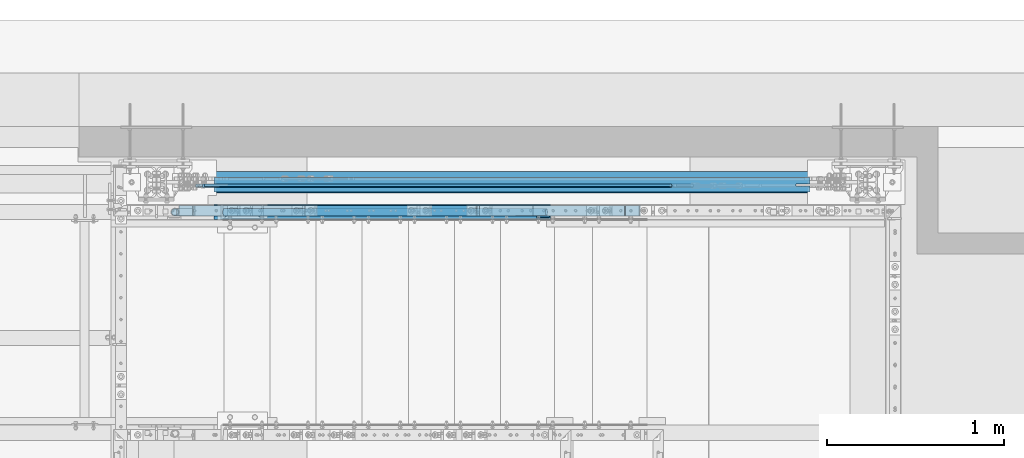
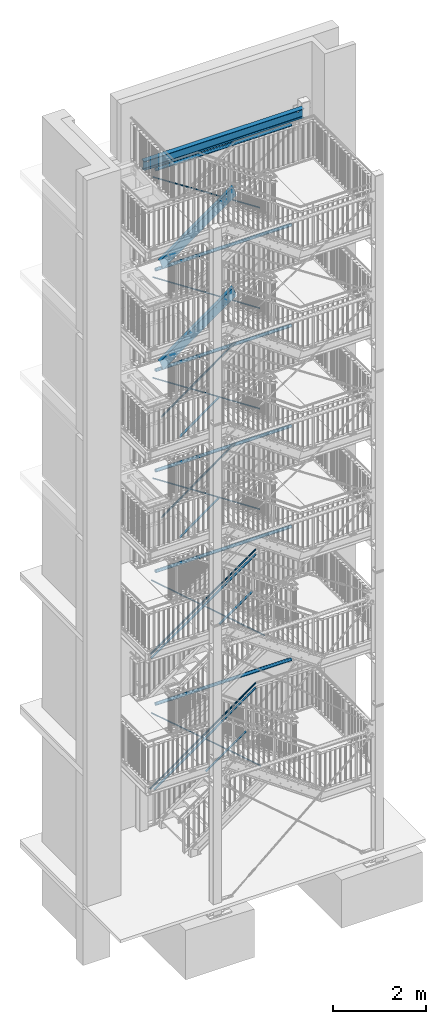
# One storey, part 128 of 831: 18 members, 7 beams, 46 openings.
"""IFC2X3 building model written with IfcOpenShell, lengths in millimetres."""

from ifc_helpers import new_model, entity, si_unit, converted_unit, frame, frame_2d, origin, origin_with_axes, origin_2d, origin_2d_with_axis, place, context, project, spatial, polyline, circle_curve, rectangle, circle, hollow_circle, i_section, u_section, outline, extrude, clip, halfspace, material, element, save


model = new_model("IFC2X3")

# Units and contexts
model_context = context("Model", 3, precision=1e-09, world=origin_with_axes())
ifc_project = project(units=[si_unit("LENGTHUNIT", "METRE", prefix="MILLI"), si_unit("AREAUNIT", "SQUARE_METRE"), si_unit("VOLUMEUNIT", "CUBIC_METRE"), converted_unit("PLANEANGLEUNIT", "DEGREE", entity("IfcPlaneAngleMeasure", 0.01745329), si_unit("PLANEANGLEUNIT", "RADIAN"), dimensions=[0, 0, 0, 0, 0, 0, 0])], contexts=[model_context])

# Site, building, storey
site_placement = place(None, origin_with_axes())
site = spatial("IfcSite", under=ifc_project, at=site_placement, Name="Site", CompositionType="ELEMENT")
building_placement = place(site_placement, origin_with_axes())
building = spatial("IfcBuilding", under=site, at=building_placement, Name="Struktur 1", CompositionType="ELEMENT")
storey_placement = place(building_placement, origin_with_axes())
storey = spatial("IfcBuildingStorey", under=building, at=storey_placement, Name="Default Storey", CompositionType="ELEMENT", Elevation=0.0)

# Members
ifc_material = material(Name="S235JR")
member_1_placement = place(None, frame((4986.295477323, 7356.736971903, 4861.709683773), z_axis=(-0.818063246, 0.0, -0.575128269), x_axis=(0.575128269, 0.0, -0.818063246)))
element("IfcMember", 1, at=member_1_placement, inside=storey, material=ifc_material, Name="Railing_Kneerail_Stair#1002", ObjectType="Railing_Kneerail_Stair#1002", context=model_context, shape_type="SweptSolid", body=[
    extrude(rectangle(XDim=10.0, YDim=60.0, at=origin_2d()), origin(), (0.0, 0.0, -1.0), 3175.074963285),
])
member_2_placement = place(None, frame((5064.778509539, 7356.736971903, 1400.5357212), z_axis=(-0.814635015, 0.0, -0.579973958), x_axis=(0.579973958, 0.0, -0.814635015)))
element("IfcMember", 2, at=member_2_placement, inside=storey, material=ifc_material, Name="Railing_Kneerail_Stair#1000", ObjectType="Railing_Kneerail_Stair#1000", context=model_context, shape_type="SweptSolid", body=[
    extrude(rectangle(XDim=10.0, YDim=60.0, at=origin_2d()), origin(), (0.0, 0.0, -1.0), 3092.190712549),
])

# Beam, openings
beam_1_placement = place(None, frame((8843.463402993, 7516.736971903, 17713.999999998), z_axis=(-1.0, 0.0, 0.0), x_axis=(0.0, 1.0, 0.0)))
beam_1 = element("IfcBeam", 3, at=beam_1_placement, inside=storey, material=ifc_material, Name="Girder", ObjectType="Girder", context=model_context, shape_type="SweptSolid", body=[
    extrude(i_section(OverallWidth=120.0, OverallDepth=240.0, WebThickness=6.2, FlangeThickness=9.8, FilletRadius=15.0, at=origin_2d()), origin(), (0.0, 0.0, 1.0), 3963.5),
])
opening_1_placement = place(beam_1_placement, frame((-160.1, -55.000000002, 151.750992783), z_axis=(-1.0, 0.0, 0.0), x_axis=(0.0, -1.0, 0.0)))
element("IfcOpeningElement", 4, at=opening_1_placement, cuts=beam_1, ObjectType="Opening", context=model_context, shape_type="SweptSolid", body=[
    extrude(outline(circle_curve(frame_2d((0.0, -25.001), x_axis=(1.0, 0.0)), 25.001)), origin(), (0.0, 0.0, -1.0), 320.2),
])
opening_2_placement = place(beam_1_placement, frame((-160.1, -55.0, 3861.750998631), z_axis=(-1.0, 0.0, 0.0), x_axis=(0.0, -1.0, 0.0)))
element("IfcOpeningElement", 5, at=opening_2_placement, cuts=beam_1, ObjectType="Opening", context=model_context, shape_type="SweptSolid", body=[
    extrude(outline(circle_curve(frame_2d((0.0, -25.001), x_axis=(1.0, 0.0)), 25.001)), origin(), (0.0, 0.0, -1.0), 320.2),
])

# Members
member_3_placement = place(None, frame((5085.030637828, 7496.736971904, 3315.453588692), z_axis=(0.757867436, 0.0, -0.652408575), x_axis=(0.652408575, 0.0, 0.757867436)))
element("IfcMember", 6, at=member_3_placement, inside=storey, material=ifc_material, Name="-", ObjectType="-", context=model_context, shape_type="SweptSolid", body=[
    extrude(circle(Radius=11.0, at=origin_2d()), origin(), (0.0, 0.0, 1.0), 3558.71454228),
])
member_4_placement = place(None, frame((5083.107423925, 7496.736971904, 6788.923578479), z_axis=(0.755906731, 0.0, -0.654679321), x_axis=(0.654679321, 0.0, 0.755906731)))
element("IfcMember", 7, at=member_4_placement, inside=storey, material=ifc_material, Name="-", ObjectType="-", context=model_context, shape_type="SweptSolid", body=[
    extrude(circle(Radius=11.0, at=origin_2d()), origin(), (0.0, 0.0, 1.0), 3695.890496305),
])
member_5_placement = place(None, frame((5121.759351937, 7496.736971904, 9443.034675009), z_axis=(0.83600607, 0.0, -0.548720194), x_axis=(0.548720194, 0.0, 0.83600607)))
element("IfcMember", 8, at=member_5_placement, inside=storey, material=ifc_material, Name="-", ObjectType="-", context=model_context, shape_type="SweptSolid", body=[
    extrude(circle(Radius=11.0, at=origin_2d()), origin(), (0.0, 0.0, 1.0), 3152.49296177),
])
member_6_placement = place(None, frame((5121.910638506, 7496.736971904, 12070.266046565), z_axis=(0.83648421, 0.0, -0.547991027), x_axis=(0.547991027, 0.0, 0.83648421)))
element("IfcMember", 9, at=member_6_placement, inside=storey, material=ifc_material, Name="-", ObjectType="-", context=model_context, shape_type="SweptSolid", body=[
    extrude(circle(Radius=11.0, at=origin_2d()), origin(), (0.0, 0.0, 1.0), 3149.75158325),
])
member_7_placement = place(None, frame((5121.66865522, 7496.736971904, 14704.895983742), z_axis=(0.835719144, 0.0, -0.549157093), x_axis=(0.549157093, 0.0, 0.835719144)))
element("IfcMember", 10, at=member_7_placement, inside=storey, material=ifc_material, Name="-", ObjectType="-", context=model_context, shape_type="SweptSolid", body=[
    extrude(circle(Radius=11.0, at=origin_2d()), origin(), (0.0, 0.0, 1.0), 3154.139325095),
])
member_8_placement = place(None, frame((5122.122703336, 7496.736971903, 17325.590428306), z_axis=(0.837153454, 0.0, -0.546968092), x_axis=(0.546968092, 0.0, 0.837153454)))
element("IfcMember", 11, at=member_8_placement, inside=storey, material=ifc_material, Name="-", ObjectType="-", context=model_context, shape_type="SweptSolid", body=[
    extrude(circle(Radius=11.0, at=origin_2d()), origin(), (0.0, 0.0, 1.0), 3145.919038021),
])

# Beam, openings
beam_2_placement = place(None, frame((5179.963402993, 7501.736971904, 6984.999996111), z_axis=(-1.0, 0.0, 0.0), x_axis=(0.0, 0.0, -1.0)))
beam_2 = element("IfcBeam", 12, at=beam_2_placement, inside=storey, material=ifc_material, Name="Girder", ObjectType="Girder", context=model_context, shape_type="SweptSolid", body=[
    extrude(hollow_circle(Radius=41.25, WallThickness=3.2, at=origin_2d()), origin(), (0.0, 0.0, -1.0), 3363.5),
])
opening_3_placement = place(beam_2_placement, frame((141.35, 0.0, -3363.5), z_axis=(-1.0, 0.0, 0.0), x_axis=(0.0, 0.0, -1.0)))
element("IfcOpeningElement", 13, at=opening_3_placement, cuts=beam_2, ObjectType="Opening", context=model_context, shape_type="SweptSolid", body=[
    extrude(outline(polyline([(-81.001, -5.501), (26.790041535, -5.501), (26.790041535, 5.501), (-81.001, 5.501), (-81.001, -5.501)])), origin(), (0.0, 0.0, 1.0), 282.7),
])
opening_4_placement = place(beam_2_placement, frame((141.35, 5.501, -73.820556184), z_axis=(1.0, 0.0, 0.0), x_axis=(0.0, 0.0, 1.0)))
element("IfcOpeningElement", 14, at=opening_4_placement, cuts=beam_2, ObjectType="Opening", context=model_context, shape_type="SweptSolid", body=[
    extrude(outline(polyline([(0.0, 0.0), (107.791041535, 0.0), (107.791041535, 11.002), (0.0, 11.002), (0.0, 0.0)])), origin(), (0.0, 0.0, -1.0), 282.7),
])

beam_3_placement = place(None, frame((5179.963402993, 7501.736971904, 3511.999996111), z_axis=(-1.0, 0.0, 0.0), x_axis=(0.0, 0.0, -1.0)))
beam_3 = element("IfcBeam", 15, at=beam_3_placement, inside=storey, material=ifc_material, Name="Girder", ObjectType="Girder", context=model_context, shape_type="SweptSolid", body=[
    extrude(hollow_circle(Radius=41.25, WallThickness=3.2, at=origin_2d()), origin(), (0.0, 0.0, -1.0), 3363.5),
])
opening_5_placement = place(beam_3_placement, frame((141.35, 0.0, -3363.5), z_axis=(-1.0, 0.0, 0.0), x_axis=(0.0, 0.0, -1.0)))
element("IfcOpeningElement", 16, at=opening_5_placement, cuts=beam_3, ObjectType="Opening", context=model_context, shape_type="SweptSolid", body=[
    extrude(outline(polyline([(-81.001, -5.501), (26.790041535, -5.501), (26.790041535, 5.501), (-81.001, 5.501), (-81.001, -5.501)])), origin(), (0.0, 0.0, 1.0), 282.7),
])
opening_6_placement = place(beam_3_placement, frame((141.35, 5.501, -73.820556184), z_axis=(1.0, 0.0, 0.0), x_axis=(0.0, 0.0, 1.0)))
element("IfcOpeningElement", 17, at=opening_6_placement, cuts=beam_3, ObjectType="Opening", context=model_context, shape_type="SweptSolid", body=[
    extrude(outline(polyline([(0.0, 0.0), (107.791041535, 0.0), (107.791041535, 11.002), (0.0, 11.002), (0.0, 0.0)])), origin(), (0.0, 0.0, -1.0), 282.7),
])

beam_4_placement = place(None, frame((5179.963402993, 7501.736971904, 9616.999996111), z_axis=(-1.0, 0.0, 0.0), x_axis=(0.0, 0.0, -1.0)))
beam_4 = element("IfcBeam", 18, at=beam_4_placement, inside=storey, material=ifc_material, Name="Girder", ObjectType="Girder", context=model_context, shape_type="SweptSolid", body=[
    extrude(hollow_circle(Radius=41.25, WallThickness=3.2, at=origin_2d()), origin(), (0.0, 0.0, -1.0), 3363.5),
])
opening_7_placement = place(beam_4_placement, frame((141.35, 0.0, -3363.5), z_axis=(-1.0, 0.0, 0.0), x_axis=(0.0, 0.0, -1.0)))
element("IfcOpeningElement", 19, at=opening_7_placement, cuts=beam_4, ObjectType="Opening", context=model_context, shape_type="SweptSolid", body=[
    extrude(outline(polyline([(-81.001, -5.501), (26.790041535, -5.501), (26.790041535, 5.501), (-81.001, 5.501), (-81.001, -5.501)])), origin(), (0.0, 0.0, 1.0), 282.7),
])
opening_8_placement = place(beam_4_placement, frame((141.35, 5.501, -73.820556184), z_axis=(1.0, 0.0, 0.0), x_axis=(0.0, 0.0, 1.0)))
element("IfcOpeningElement", 20, at=opening_8_placement, cuts=beam_4, ObjectType="Opening", context=model_context, shape_type="SweptSolid", body=[
    extrude(outline(polyline([(0.0, 0.0), (107.791041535, 0.0), (107.791041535, 11.002), (0.0, 11.002), (0.0, 0.0)])), origin(), (0.0, 0.0, -1.0), 282.7),
])

beam_5_placement = place(None, frame((5179.963402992, 7501.736971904, 12243.999996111), z_axis=(-1.0, 0.0, 0.0), x_axis=(0.0, 0.0, -1.0)))
beam_5 = element("IfcBeam", 21, at=beam_5_placement, inside=storey, material=ifc_material, Name="Girder", ObjectType="Girder", context=model_context, shape_type="SweptSolid", body=[
    extrude(hollow_circle(Radius=41.25, WallThickness=3.2, at=origin_2d()), origin(), (0.0, 0.0, -1.0), 3363.5),
])
opening_9_placement = place(beam_5_placement, frame((141.35, 0.0, -3363.5), z_axis=(-1.0, 0.0, 0.0), x_axis=(0.0, 0.0, -1.0)))
element("IfcOpeningElement", 22, at=opening_9_placement, cuts=beam_5, ObjectType="Opening", context=model_context, shape_type="SweptSolid", body=[
    extrude(outline(polyline([(-81.001, -5.501), (26.790041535, -5.501), (26.790041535, 5.501), (-81.001, 5.501), (-81.001, -5.501)])), origin(), (0.0, 0.0, 1.0), 282.7),
])
opening_10_placement = place(beam_5_placement, frame((141.35, 5.501, -73.820556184), z_axis=(1.0, 0.0, 0.0), x_axis=(0.0, 0.0, 1.0)))
element("IfcOpeningElement", 23, at=opening_10_placement, cuts=beam_5, ObjectType="Opening", context=model_context, shape_type="SweptSolid", body=[
    extrude(outline(polyline([(0.0, 0.0), (107.791041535, 0.0), (107.791041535, 11.002), (0.0, 11.002), (0.0, 0.0)])), origin(), (0.0, 0.0, -1.0), 282.7),
])

beam_6_placement = place(None, frame((5179.963402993, 7501.736971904, 14878.999996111), z_axis=(-1.0, 0.0, 0.0), x_axis=(0.0, 0.0, -1.0)))
beam_6 = element("IfcBeam", 24, at=beam_6_placement, inside=storey, material=ifc_material, Name="Girder", ObjectType="Girder", context=model_context, shape_type="SweptSolid", body=[
    extrude(hollow_circle(Radius=41.25, WallThickness=3.2, at=origin_2d()), origin(), (0.0, 0.0, -1.0), 3363.5),
])
opening_11_placement = place(beam_6_placement, frame((141.35, 0.0, -3363.5), z_axis=(-1.0, 0.0, 0.0), x_axis=(0.0, 0.0, -1.0)))
element("IfcOpeningElement", 25, at=opening_11_placement, cuts=beam_6, ObjectType="Opening", context=model_context, shape_type="SweptSolid", body=[
    extrude(outline(polyline([(-81.001, -5.501), (26.790041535, -5.501), (26.790041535, 5.501), (-81.001, 5.501), (-81.001, -5.501)])), origin(), (0.0, 0.0, 1.0), 282.7),
])
opening_12_placement = place(beam_6_placement, frame((141.35, 5.501, -73.820556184), z_axis=(1.0, 0.0, 0.0), x_axis=(0.0, 0.0, 1.0)))
element("IfcOpeningElement", 26, at=opening_12_placement, cuts=beam_6, ObjectType="Opening", context=model_context, shape_type="SweptSolid", body=[
    extrude(outline(polyline([(0.0, 0.0), (107.791041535, 0.0), (107.791041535, 11.002), (0.0, 11.002), (0.0, 0.0)])), origin(), (0.0, 0.0, -1.0), 282.7),
])

beam_7_placement = place(None, frame((5179.963402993, 7501.736971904, 17498.999996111), z_axis=(-1.0, 0.0, 0.0), x_axis=(0.0, 0.0, -1.0)))
beam_7 = element("IfcBeam", 27, at=beam_7_placement, inside=storey, material=ifc_material, Name="Girder", ObjectType="Girder", context=model_context, shape_type="SweptSolid", body=[
    extrude(hollow_circle(Radius=41.25, WallThickness=3.2, at=origin_2d()), origin(), (0.0, 0.0, -1.0), 3363.5),
])
opening_13_placement = place(beam_7_placement, frame((141.35, 0.0, -3363.5), z_axis=(-1.0, 0.0, 0.0), x_axis=(0.0, 0.0, -1.0)))
element("IfcOpeningElement", 28, at=opening_13_placement, cuts=beam_7, ObjectType="Opening", context=model_context, shape_type="SweptSolid", body=[
    extrude(outline(polyline([(-81.001, -5.501), (26.790041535, -5.501), (26.790041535, 5.501), (-81.001, 5.501), (-81.001, -5.501)])), origin(), (0.0, 0.0, 1.0), 282.7),
])
opening_14_placement = place(beam_7_placement, frame((141.35, 5.501, -73.820556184), z_axis=(1.0, 0.0, 0.0), x_axis=(0.0, 0.0, 1.0)))
element("IfcOpeningElement", 29, at=opening_14_placement, cuts=beam_7, ObjectType="Opening", context=model_context, shape_type="SweptSolid", body=[
    extrude(outline(polyline([(0.0, 0.0), (107.791041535, 0.0), (107.791041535, 11.002), (0.0, 11.002), (0.0, 0.0)])), origin(), (0.0, 0.0, -1.0), 282.7),
])

# Members
member_9_placement = place(None, frame((4933.622473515, 7347.936971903, 1439.321699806), z_axis=(-0.814635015, 0.0, -0.579973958), x_axis=(0.579973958, 0.0, -0.814635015)))
element("IfcMember", 30, at=member_9_placement, inside=storey, material=ifc_material, Name="Gel?nder", ObjectType="Gel?nder", context=model_context, shape_type="Clipping", body=[
    clip(clip(extrude(hollow_circle(Radius=21.2, WallThickness=3.2, at=origin_2d()), origin(), (0.0, 0.0, -1.0), 3275.984752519), halfspace(frame((-3324.976639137, 7347.936971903, 1680.625855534), z_axis=(-0.458271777, 0.0, -0.888812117), x_axis=(0.0, -1.0, 0.0)), True)), halfspace(frame((816.100663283, 7347.936971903, -2983.675065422), z_axis=(-0.304437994, 0.0, 0.952532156), x_axis=(0.0, 1.0, 0.0)), True)),
])
member_10_placement = place(None, frame((6345.189860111, 7356.736971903, 1424.068005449), z_axis=(-0.814635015, 0.0, -0.579973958), x_axis=(0.579973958, 0.0, -0.814635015)))
element("IfcMember", 31, at=member_10_placement, inside=storey, material=ifc_material, Name="Railing_Kneerail_Stair#2", ObjectType="Railing_Kneerail_Stair#2", context=model_context, shape_type="SweptSolid", body=[
    extrude(rectangle(XDim=10.0, YDim=60.0, at=origin_2d()), origin(), (0.0, 0.0, -1.0), 1218.06374537),
])
member_11_placement = place(None, frame((4950.988825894, 7347.936971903, 4968.914684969), z_axis=(-0.818063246, 0.0, -0.575128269), x_axis=(0.575128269, 0.0, -0.818063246)))
element("IfcMember", 32, at=member_11_placement, inside=storey, material=ifc_material, Name="Gel?nder", ObjectType="Gel?nder", context=model_context, shape_type="Clipping", body=[
    clip(clip(extrude(hollow_circle(Radius=21.2, WallThickness=3.2, at=origin_2d()), origin(), (0.0, 0.0, -1.0), 3241.129789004), halfspace(frame((3102.216720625, 7347.936971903, 949.912137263), z_axis=(0.301609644, 0.0, -0.953431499), x_axis=(0.0, -1.0, 0.0)), True)), halfspace(frame((4016.163485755, 7347.936971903, -1939.205143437), z_axis=(-0.301609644, 0.0, 0.953431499), x_axis=(0.0, 1.0, 0.0)), True)),
])
member_12_placement = place(None, frame((6682.089330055, 7356.736971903, 5165.39737516), z_axis=(-0.818063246, 0.0, -0.575128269), x_axis=(0.575128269, 0.0, -0.818063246)))
element("IfcMember", 33, at=member_12_placement, inside=storey, material=ifc_material, Name="Railing_Kneerail_Stair#4", ObjectType="Railing_Kneerail_Stair#4", context=model_context, shape_type="SweptSolid", body=[
    extrude(rectangle(XDim=10.0, YDim=60.0, at=origin_2d()), origin(), (0.0, 0.0, -1.0), 997.321307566),
])

# Member, openings
member_13_placement = place(None, frame((5041.249041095, 7329.036971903, 12329.361065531), z_axis=(0.810033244, 0.0, 0.586383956), x_axis=(0.0, 1.0, 0.0)))
member_13 = element("IfcMember", 34, at=member_13_placement, inside=storey, material=ifc_material, Name="Stringer#1", ObjectType="Stringer#1", context=model_context, shape_type="Clipping", body=[
    clip(clip(extrude(u_section(Depth=240.0, FlangeWidth=85.0, WebThickness=9.5, FlangeThickness=13.0, FilletRadius=13.0, EdgeRadius=6.5, FlangeSlope=4.574, at=frame_2d((20.2, 0.0))), origin(), (0.0, 0.0, 1.0), 2766.736495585), halfspace(frame((-7329.036971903, -10403.792085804, -902.542281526), z_axis=(0.0, 0.308193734, -0.951323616), x_axis=(-1.0, 0.0, 0.0)), True)), halfspace(frame((-7329.036971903, -9745.042702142, -2935.951061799), z_axis=(0.0, -0.308193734, 0.951323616), x_axis=(1.0, 0.0, 0.0)), True)),
])
opening_15_placement = place(member_13_placement, frame((-22.8, 54.92473321, 1287.195743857), z_axis=(1.0, 0.0, 0.0), x_axis=(0.0, -0.586383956, 0.810033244)))
element("IfcOpeningElement", 35, at=opening_15_placement, cuts=member_13, ObjectType="Opening", context=model_context, shape_type="SweptSolid", body=[
    extrude(circle(Radius=7.001, at=origin_2d_with_axis()), origin(), (0.0, 0.0, 1.0), 10.5),
])
opening_16_placement = place(member_13_placement, frame((-22.8, -50.624378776, 1112.027246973), z_axis=(1.0, 0.0, 0.0), x_axis=(0.0, -0.586383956, 0.810033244)))
element("IfcOpeningElement", 36, at=opening_16_placement, cuts=member_13, ObjectType="Opening", context=model_context, shape_type="SweptSolid", body=[
    extrude(circle(Radius=7.001, at=origin_2d_with_axis()), origin(), (0.0, 0.0, 1.0), 10.5),
])
opening_17_placement = place(member_13_placement, frame((-22.8, -50.624378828, 1753.976208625), z_axis=(1.0, 0.0, 0.0), x_axis=(0.0, -0.586383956, 0.810033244)))
element("IfcOpeningElement", 37, at=opening_17_placement, cuts=member_13, ObjectType="Opening", context=model_context, shape_type="SweptSolid", body=[
    extrude(circle(Radius=7.001, at=origin_2d_with_axis()), origin(), (0.0, 0.0, 1.0), 10.5),
])
opening_18_placement = place(member_13_placement, frame((-22.8, 54.924733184, 1608.170224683), z_axis=(1.0, 0.0, 0.0), x_axis=(0.0, -0.586383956, 0.810033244)))
element("IfcOpeningElement", 38, at=opening_18_placement, cuts=member_13, ObjectType="Opening", context=model_context, shape_type="SweptSolid", body=[
    extrude(circle(Radius=7.001, at=origin_2d_with_axis()), origin(), (0.0, 0.0, 1.0), 10.5),
])
opening_19_placement = place(member_13_placement, frame((-22.8, -50.624378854, 2074.950689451), z_axis=(1.0, 0.0, 0.0), x_axis=(0.0, -0.586383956, 0.810033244)))
element("IfcOpeningElement", 39, at=opening_19_placement, cuts=member_13, ObjectType="Opening", context=model_context, shape_type="SweptSolid", body=[
    extrude(circle(Radius=7.001, at=origin_2d_with_axis()), origin(), (0.0, 0.0, 1.0), 10.5),
])
opening_20_placement = place(member_13_placement, frame((-22.8, 54.924733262, 645.246782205), z_axis=(1.0, 0.0, 0.0), x_axis=(0.0, -0.586383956, 0.810033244)))
element("IfcOpeningElement", 40, at=opening_20_placement, cuts=member_13, ObjectType="Opening", context=model_context, shape_type="SweptSolid", body=[
    extrude(circle(Radius=7.001, at=origin_2d_with_axis()), origin(), (0.0, 0.0, 1.0), 10.5),
])
opening_21_placement = place(member_13_placement, frame((-22.8, 54.924733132, 2250.119186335), z_axis=(1.0, 0.0, 0.0), x_axis=(0.0, -0.586383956, 0.810033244)))
element("IfcOpeningElement", 41, at=opening_21_placement, cuts=member_13, ObjectType="Opening", context=model_context, shape_type="SweptSolid", body=[
    extrude(circle(Radius=7.001, at=origin_2d_with_axis()), origin(), (0.0, 0.0, 1.0), 10.5),
])
opening_22_placement = place(member_13_placement, frame((-22.8, 54.924733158, 1929.144705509), z_axis=(1.0, 0.0, 0.0), x_axis=(0.0, -0.586383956, 0.810033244)))
element("IfcOpeningElement", 42, at=opening_22_placement, cuts=member_13, ObjectType="Opening", context=model_context, shape_type="SweptSolid", body=[
    extrude(circle(Radius=7.001, at=origin_2d_with_axis()), origin(), (0.0, 0.0, 1.0), 10.5),
])
opening_23_placement = place(member_13_placement, frame((-22.8, -50.624378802, 1433.001727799), z_axis=(1.0, 0.0, 0.0), x_axis=(0.0, -0.586383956, 0.810033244)))
element("IfcOpeningElement", 43, at=opening_23_placement, cuts=member_13, ObjectType="Opening", context=model_context, shape_type="SweptSolid", body=[
    extrude(circle(Radius=7.001, at=origin_2d_with_axis()), origin(), (0.0, 0.0, 1.0), 10.5),
])
opening_24_placement = place(member_13_placement, frame((-22.8, 54.924733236, 966.221263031), z_axis=(1.0, 0.0, 0.0), x_axis=(0.0, -0.586383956, 0.810033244)))
element("IfcOpeningElement", 44, at=opening_24_placement, cuts=member_13, ObjectType="Opening", context=model_context, shape_type="SweptSolid", body=[
    extrude(circle(Radius=7.001, at=origin_2d_with_axis()), origin(), (0.0, 0.0, 1.0), 10.5),
])
opening_25_placement = place(member_13_placement, frame((-22.8, -50.62437888, 2395.925170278), z_axis=(1.0, 0.0, 0.0), x_axis=(0.0, -0.586383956, 0.810033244)))
element("IfcOpeningElement", 45, at=opening_25_placement, cuts=member_13, ObjectType="Opening", context=model_context, shape_type="SweptSolid", body=[
    extrude(circle(Radius=7.001, at=origin_2d_with_axis()), origin(), (0.0, 0.0, 1.0), 10.5),
])
opening_26_placement = place(member_13_placement, frame((-22.8, -50.62437875, 791.052766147), z_axis=(1.0, 0.0, 0.0), x_axis=(0.0, -0.586383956, 0.810033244)))
element("IfcOpeningElement", 46, at=opening_26_placement, cuts=member_13, ObjectType="Opening", context=model_context, shape_type="SweptSolid", body=[
    extrude(circle(Radius=7.001, at=origin_2d_with_axis()), origin(), (0.0, 0.0, 1.0), 10.5),
])
opening_27_placement = place(member_13_placement, frame((27.7, 120.5, 941.139330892), z_axis=(0.0, 1.0, 0.0), x_axis=(-1.0, 0.0, 0.0)))
element("IfcOpeningElement", 47, at=opening_27_placement, cuts=member_13, ObjectType="Opening", context=model_context, shape_type="SweptSolid", body=[
    extrude(circle(Radius=7.001, at=frame_2d((0.0, 7.001), x_axis=(1.0, 0.0))), origin(), (0.0, 0.0, -1.0), 14.0),
])
opening_28_placement = place(member_13_placement, frame((27.7, 120.5, 841.139330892), z_axis=(0.0, 1.0, 0.0), x_axis=(-1.0, 0.0, 0.0)))
element("IfcOpeningElement", 48, at=opening_28_placement, cuts=member_13, ObjectType="Opening", context=model_context, shape_type="SweptSolid", body=[
    extrude(circle(Radius=7.001, at=frame_2d((0.0, 7.001), x_axis=(1.0, 0.0))), origin(), (0.0, 0.0, -1.0), 14.0),
])
opening_29_placement = place(member_13_placement, frame((27.7, 120.5, 2157.13898276), z_axis=(0.0, 1.0, 0.0), x_axis=(-1.0, 0.0, 0.0)))
element("IfcOpeningElement", 49, at=opening_29_placement, cuts=member_13, ObjectType="Opening", context=model_context, shape_type="SweptSolid", body=[
    extrude(circle(Radius=7.001, at=frame_2d((0.0, 7.001), x_axis=(1.0, 0.0))), origin(), (0.0, 0.0, -1.0), 14.000000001),
])
opening_30_placement = place(member_13_placement, frame((27.7, 120.500000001, 2057.13898276), z_axis=(0.0, 1.0, 0.0), x_axis=(-1.0, 0.0, 0.0)))
element("IfcOpeningElement", 50, at=opening_30_placement, cuts=member_13, ObjectType="Opening", context=model_context, shape_type="SweptSolid", body=[
    extrude(circle(Radius=7.001, at=frame_2d((0.0, 7.001), x_axis=(1.0, 0.0))), origin(), (0.0, 0.0, -1.0), 14.000000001),
])

member_14_placement = place(None, frame((5040.349232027, 7329.036971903, 14964.808313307), z_axis=(0.811618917, 0.0, 0.584187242), x_axis=(0.0, 1.0, 0.0)))
member_14 = element("IfcMember", 51, at=member_14_placement, inside=storey, material=ifc_material, Name="Stringer#1", ObjectType="Stringer#1", context=model_context, shape_type="Clipping", body=[
    clip(clip(extrude(u_section(Depth=240.0, FlangeWidth=85.0, WebThickness=9.5, FlangeThickness=13.0, FilletRadius=13.0, EdgeRadius=6.5, FlangeSlope=4.574, at=frame_2d((20.2, 0.0))), origin(), (0.0, 0.0, 1.0), 2762.119261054), halfspace(frame((-7329.036971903, -12802.606591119, -1664.839205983), z_axis=(0.0, 0.306904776, -0.951740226), x_axis=(-1.0, 0.0, 0.0)), True)), halfspace(frame((-7329.036971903, -12147.607204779, -3696.053161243), z_axis=(0.0, -0.306904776, 0.951740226), x_axis=(1.0, 0.0, 0.0)), True)),
])
opening_31_placement = place(member_14_placement, frame((-22.8, 54.914406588, 644.938721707), z_axis=(1.0, 0.0, 0.0), x_axis=(0.0, -0.584187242, 0.811618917)))
element("IfcOpeningElement", 52, at=opening_31_placement, cuts=member_14, ObjectType="Opening", context=model_context, shape_type="SweptSolid", body=[
    extrude(circle(Radius=7.001, at=origin_2d_with_axis()), origin(), (0.0, 0.0, 1.0), 10.5),
])
opening_32_placement = place(member_14_placement, frame((-22.8, -50.239297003, 2392.767066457), z_axis=(1.0, 0.0, 0.0), x_axis=(0.0, -0.584187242, 0.811618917)))
element("IfcOpeningElement", 53, at=opening_32_placement, cuts=member_14, ObjectType="Opening", context=model_context, shape_type="SweptSolid", body=[
    extrude(circle(Radius=7.001, at=origin_2d_with_axis()), origin(), (0.0, 0.0, 1.0), 10.5),
])
opening_33_placement = place(member_14_placement, frame((-22.8, 54.914406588, 1605.980885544), z_axis=(1.0, 0.0, 0.0), x_axis=(0.0, -0.584187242, 0.811618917)))
element("IfcOpeningElement", 54, at=opening_33_placement, cuts=member_14, ObjectType="Opening", context=model_context, shape_type="SweptSolid", body=[
    extrude(circle(Radius=7.001, at=origin_2d_with_axis()), origin(), (0.0, 0.0, 1.0), 10.5),
])
opening_34_placement = place(member_14_placement, frame((-22.8, -50.239297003, 1111.377514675), z_axis=(1.0, 0.0, 0.0), x_axis=(0.0, -0.584187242, 0.811618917)))
element("IfcOpeningElement", 55, at=opening_34_placement, cuts=member_14, ObjectType="Opening", context=model_context, shape_type="SweptSolid", body=[
    extrude(circle(Radius=7.001, at=origin_2d_with_axis()), origin(), (0.0, 0.0, 1.0), 10.5),
])
opening_35_placement = place(member_14_placement, frame((-22.8, -50.239297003, 1431.72490262), z_axis=(1.0, 0.0, 0.0), x_axis=(0.0, -0.584187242, 0.811618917)))
element("IfcOpeningElement", 56, at=opening_35_placement, cuts=member_14, ObjectType="Opening", context=model_context, shape_type="SweptSolid", body=[
    extrude(circle(Radius=7.001, at=origin_2d_with_axis()), origin(), (0.0, 0.0, 1.0), 10.5),
])
opening_36_placement = place(member_14_placement, frame((-22.8, 54.914406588, 2246.675661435), z_axis=(1.0, 0.0, 0.0), x_axis=(0.0, -0.584187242, 0.811618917)))
element("IfcOpeningElement", 57, at=opening_36_placement, cuts=member_14, ObjectType="Opening", context=model_context, shape_type="SweptSolid", body=[
    extrude(circle(Radius=7.001, at=origin_2d_with_axis()), origin(), (0.0, 0.0, 1.0), 10.5),
])
opening_37_placement = place(member_14_placement, frame((-22.8, -50.239297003, 2072.419678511), z_axis=(1.0, 0.0, 0.0), x_axis=(0.0, -0.584187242, 0.811618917)))
element("IfcOpeningElement", 58, at=opening_37_placement, cuts=member_14, ObjectType="Opening", context=model_context, shape_type="SweptSolid", body=[
    extrude(circle(Radius=7.001, at=origin_2d_with_axis()), origin(), (0.0, 0.0, 1.0), 10.5),
])
opening_38_placement = place(member_14_placement, frame((-22.8, 54.914406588, 965.286109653), z_axis=(1.0, 0.0, 0.0), x_axis=(0.0, -0.584187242, 0.811618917)))
element("IfcOpeningElement", 59, at=opening_38_placement, cuts=member_14, ObjectType="Opening", context=model_context, shape_type="SweptSolid", body=[
    extrude(circle(Radius=7.001, at=origin_2d_with_axis()), origin(), (0.0, 0.0, 1.0), 10.5),
])
opening_39_placement = place(member_14_placement, frame((-22.8, 54.914406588, 1926.32827349), z_axis=(1.0, 0.0, 0.0), x_axis=(0.0, -0.584187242, 0.811618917)))
element("IfcOpeningElement", 60, at=opening_39_placement, cuts=member_14, ObjectType="Opening", context=model_context, shape_type="SweptSolid", body=[
    extrude(circle(Radius=7.001, at=origin_2d_with_axis()), origin(), (0.0, 0.0, 1.0), 10.5),
])
opening_40_placement = place(member_14_placement, frame((-22.8, -50.239297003, 1752.072290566), z_axis=(1.0, 0.0, 0.0), x_axis=(0.0, -0.584187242, 0.811618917)))
element("IfcOpeningElement", 61, at=opening_40_placement, cuts=member_14, ObjectType="Opening", context=model_context, shape_type="SweptSolid", body=[
    extrude(circle(Radius=7.001, at=origin_2d_with_axis()), origin(), (0.0, 0.0, 1.0), 10.5),
])
opening_41_placement = place(member_14_placement, frame((-22.8, 54.914406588, 1285.633497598), z_axis=(1.0, 0.0, 0.0), x_axis=(0.0, -0.584187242, 0.811618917)))
element("IfcOpeningElement", 62, at=opening_41_placement, cuts=member_14, ObjectType="Opening", context=model_context, shape_type="SweptSolid", body=[
    extrude(circle(Radius=7.001, at=origin_2d_with_axis()), origin(), (0.0, 0.0, 1.0), 10.5),
])
opening_42_placement = place(member_14_placement, frame((-22.8, -50.239297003, 791.030126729), z_axis=(1.0, 0.0, 0.0), x_axis=(0.0, -0.584187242, 0.811618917)))
element("IfcOpeningElement", 63, at=opening_42_placement, cuts=member_14, ObjectType="Opening", context=model_context, shape_type="SweptSolid", body=[
    extrude(circle(Radius=7.001, at=origin_2d_with_axis()), origin(), (0.0, 0.0, 1.0), 10.5),
])
opening_43_placement = place(member_14_placement, frame((27.7, 120.5, 940.178602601), z_axis=(0.0, 1.0, 0.0), x_axis=(-1.0, 0.0, 0.0)))
element("IfcOpeningElement", 64, at=opening_43_placement, cuts=member_14, ObjectType="Opening", context=model_context, shape_type="SweptSolid", body=[
    extrude(circle(Radius=7.001, at=frame_2d((0.0, 7.001), x_axis=(1.0, 0.0))), origin(), (0.0, 0.0, -1.0), 14.0),
])
opening_44_placement = place(member_14_placement, frame((27.7, 120.5, 840.178602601), z_axis=(0.0, 1.0, 0.0), x_axis=(-1.0, 0.0, 0.0)))
element("IfcOpeningElement", 65, at=opening_44_placement, cuts=member_14, ObjectType="Opening", context=model_context, shape_type="SweptSolid", body=[
    extrude(circle(Radius=7.001, at=frame_2d((0.0, 7.001), x_axis=(1.0, 0.0))), origin(), (0.0, 0.0, -1.0), 14.0),
])
opening_45_placement = place(member_14_placement, frame((27.7, 120.5, 2153.802536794), z_axis=(0.0, 1.0, 0.0), x_axis=(-1.0, 0.0, 0.0)))
element("IfcOpeningElement", 66, at=opening_45_placement, cuts=member_14, ObjectType="Opening", context=model_context, shape_type="SweptSolid", body=[
    extrude(circle(Radius=7.001, at=frame_2d((0.0, 7.001), x_axis=(1.0, 0.0))), origin(), (0.0, 0.0, -1.0), 14.0),
])
opening_46_placement = place(member_14_placement, frame((27.7, 120.5, 2053.802536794), z_axis=(0.0, 1.0, 0.0), x_axis=(-1.0, 0.0, 0.0)))
element("IfcOpeningElement", 67, at=opening_46_placement, cuts=member_14, ObjectType="Opening", context=model_context, shape_type="SweptSolid", body=[
    extrude(circle(Radius=7.001, at=frame_2d((0.0, 7.001), x_axis=(1.0, 0.0))), origin(), (0.0, 0.0, -1.0), 14.0),
])

# Members
member_15_placement = place(None, frame((5211.177138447, 7347.936971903, 8441.535316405), z_axis=(-0.810350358, 0.0, -0.585945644), x_axis=(0.585945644, 0.0, -0.810350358)))
element("IfcMember", 68, at=member_15_placement, inside=storey, material=ifc_material, Name="Gel?nder", ObjectType="Gel?nder", context=model_context, shape_type="Clipping", body=[
    clip(clip(extrude(hollow_circle(Radius=21.2, WallThickness=3.2, at=origin_2d()), origin(), (0.0, 0.0, -1.0), 2308.967362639), halfspace(frame((6123.567620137, 7347.936971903, 1950.466087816), z_axis=(0.307936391, 0.0, -0.951406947), x_axis=(0.0, -1.0, 0.0)), True)), halfspace(frame((6781.567004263, 7347.936971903, -82.503068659), z_axis=(-0.307936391, 0.0, 0.951406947), x_axis=(0.0, 1.0, 0.0)), True)),
])
member_16_placement = place(None, frame((5697.143274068, 7356.736971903, 7773.13843299), z_axis=(-0.810350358, 0.0, -0.585945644), x_axis=(0.585945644, 0.0, -0.810350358)))
element("IfcMember", 69, at=member_16_placement, inside=storey, material=ifc_material, Name="Railing_Kneerail_Stair#3", ObjectType="Railing_Kneerail_Stair#3", context=model_context, shape_type="SweptSolid", body=[
    extrude(rectangle(XDim=10.0, YDim=60.0, at=origin_2d()), origin(), (0.0, 0.0, -1.0), 1189.782514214),
])
member_17_placement = place(None, frame((5211.164211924, 7347.936971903, 11073.561064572), z_axis=(-0.810878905, 0.0, -0.585213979), x_axis=(0.585213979, 0.0, -0.810878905)))
element("IfcMember", 70, at=member_17_placement, inside=storey, material=ifc_material, Name="Gel?nder", ObjectType="Gel?nder", context=model_context, shape_type="Clipping", body=[
    clip(clip(extrude(hollow_circle(Radius=21.2, WallThickness=3.2, at=origin_2d()), origin(), (0.0, 0.0, -1.0), 2307.494214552), halfspace(frame((8510.835770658, 7347.936971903, 2718.901267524), z_axis=(0.307506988, 0.0, -0.951545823), x_axis=(0.0, -1.0, 0.0)), True)), halfspace(frame((9167.585155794, 7347.936971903, 686.664086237), z_axis=(-0.307506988, 0.0, 0.951545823), x_axis=(0.0, 1.0, 0.0)), True)),
])
member_18_placement = place(None, frame((5697.139615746, 7356.736971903, 10404.451050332), z_axis=(-0.810878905, 0.0, -0.585213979), x_axis=(0.585213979, 0.0, -0.810878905)))
element("IfcMember", 71, at=member_18_placement, inside=storey, material=ifc_material, Name="Railing_Kneerail_Stair#3", ObjectType="Railing_Kneerail_Stair#3", context=model_context, shape_type="SweptSolid", body=[
    extrude(rectangle(XDim=10.0, YDim=60.0, at=origin_2d()), origin(), (0.0, 0.0, -1.0), 1189.01601348),
])

save(model, "model.ifc")
